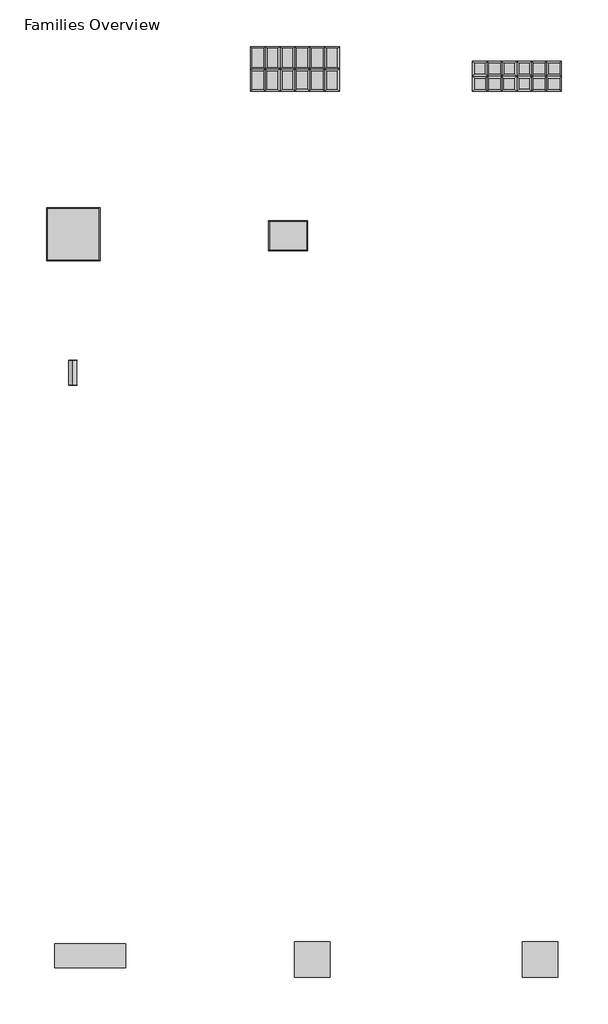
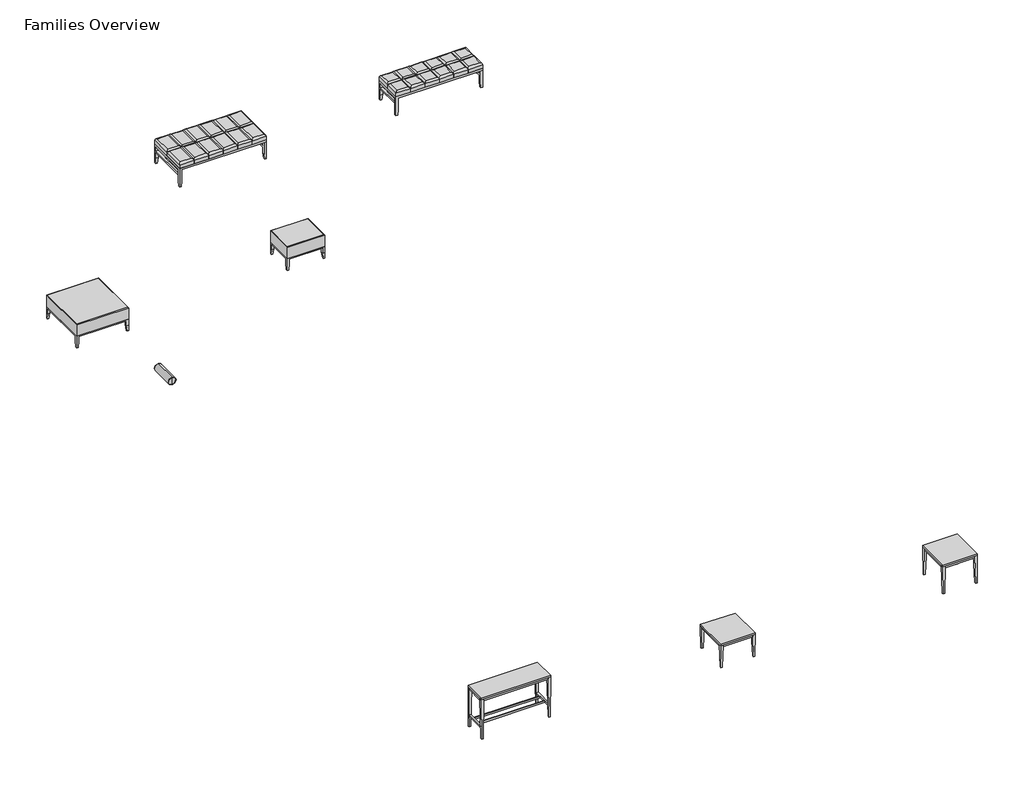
# One storey, incomplete: 8 furniture elements.
"""IFC4 building model written with IfcOpenShell, lengths in millimetres."""

from ifc_helpers import new_model, si_unit, origin, place, context, project, spatial, transform, mapped, element, save
from components import furniture_47a4f57b, furniture_c56e84ff, furniture_b1196c01, furniture_3766e529, furniture_ded83b1d, furniture_429d2503, furniture_f0c5a1ee, furniture_44acf5a9

model = new_model("IFC4")

# Units and contexts
model_context = context("Model", 3, world=origin())
ifc_project = project(units=[si_unit("LENGTHUNIT", "METRE", prefix="MILLI")], contexts=[model_context])

# Site, building, storey
site = spatial("IfcSite", under=ifc_project)
building = spatial("IfcBuilding", under=site)
storey = spatial("IfcBuildingStorey", under=building, Name="Families Overview", Elevation=0.0)

# Furniture
placement = place(None, origin())
furniture_shape = furniture_47a4f57b(model_context)
element("IfcFurniture", 1, ObjectType="Coalesse_AM_Accessory_Pillow_Passerelle_ArmBolster : Arm Bolster", at=placement, inside=storey, context=model_context, shape_type="MappedRepresentation", body=[
    mapped(furniture_shape, transform((-36678.7540325, 24507.2302612, 0.0), x_axis=(1.0, 0.0, 0.0), y_axis=(0.0, 1.0, 0.0), z_axis=(0.0, 0.0, 1.0))),
])
furniture_2_shape = furniture_c56e84ff(model_context)
element("IfcFurniture", 2, ObjectType="Coalesse_AM_Seating_Bench_Passerelle : 30D x 60W", at=placement, inside=storey, context=model_context, shape_type="MappedRepresentation", body=[
    mapped(furniture_2_shape, transform((-33641.1830036, 30302.136108, 0.0), x_axis=(1.0, 0.0, 0.0), y_axis=(0.0, 1.0, 0.0), z_axis=(0.0, 0.0, 1.0))),
])
furniture_3_shape = furniture_b1196c01(model_context)
element("IfcFurniture", 3, ObjectType="Coalesse_AM_Seating_Bench_Passerelle : 20D x 60W", at=placement, inside=storey, context=model_context, shape_type="MappedRepresentation", body=[
    mapped(furniture_3_shape, transform((-29841.6119747, 30048.136108, 0.0), x_axis=(1.0, 0.0, 0.0), y_axis=(0.0, 1.0, 0.0), z_axis=(0.0, 0.0, 1.0))),
])
furniture_4_shape = furniture_3766e529(model_context)
element("IfcFurniture", 4, ObjectType="Coalesse_AM_Seating_Ottoman_Passerelle : 20D x 26W", at=placement, inside=storey, context=model_context, shape_type="MappedRepresentation", body=[
    mapped(furniture_4_shape, transform((-33325.9540325, 27320.549747, 0.0), x_axis=(1.0, 0.0, 0.0), y_axis=(0.0, 1.0, 0.0), z_axis=(0.0, 0.0, 1.0))),
])
furniture_5_shape = furniture_ded83b1d(model_context)
element("IfcFurniture", 5, ObjectType="Coalesse_AM_Seating_Ottoman_Passerelle : 36D x 36W", at=placement, inside=storey, context=model_context, shape_type="MappedRepresentation", body=[
    mapped(furniture_5_shape, transform((-37130.3480654, 27548.8988351, 0.0), x_axis=(1.0, 0.0, 0.0), y_axis=(0.0, 1.0, 0.0), z_axis=(0.0, 0.0, 1.0))),
])
furniture_6_shape = furniture_429d2503(model_context)
element("IfcFurniture", 6, ObjectType="Coalesse_AM_Table_Ocassional_Passerelle : 16D x 48W x 30H", at=placement, inside=storey, context=model_context, shape_type="MappedRepresentation", body=[
    mapped(furniture_6_shape, transform((-37657.9009256, 15168.9131787, 0.0), x_axis=(1.0, 0.0, 0.0), y_axis=(0.0, 1.0, 0.0), z_axis=(0.0, 0.0, 1.0))),
])
furniture_7_shape = furniture_f0c5a1ee(model_context)
element("IfcFurniture", 7, ObjectType="Coalesse_AM_Table_Ocassional_Passerelle : 24D x 24W x 17H", at=placement, inside=storey, context=model_context, shape_type="MappedRepresentation", body=[
    mapped(furniture_7_shape, transform((-33553.5298967, 15202.0863718, 0.0), x_axis=(1.0, 0.0, 0.0), y_axis=(0.0, 1.0, 0.0), z_axis=(0.0, 0.0, 1.0))),
])
furniture_8_shape = furniture_44acf5a9(model_context)
element("IfcFurniture", 8, ObjectType="Coalesse_AM_Table_Ocassional_Passerelle : 24D x 24W x 21H", at=placement, inside=storey, context=model_context, shape_type="MappedRepresentation", body=[
    mapped(furniture_8_shape, transform((-29648.1578241, 15202.0863718, 0.0), x_axis=(1.0, 0.0, 0.0), y_axis=(0.0, 1.0, 0.0), z_axis=(0.0, 0.0, 1.0))),
])

save(model, "model.ifc")
